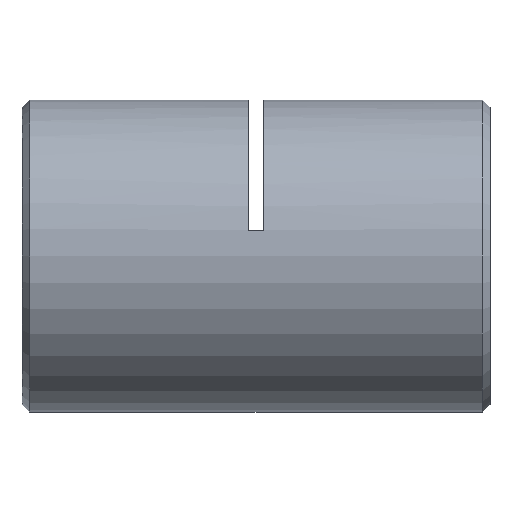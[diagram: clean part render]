
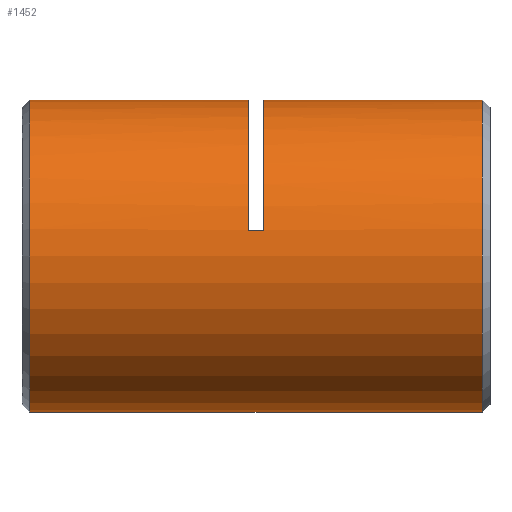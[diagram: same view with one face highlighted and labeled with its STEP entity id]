
A CAD part, left-side view. The second image highlights one B-rep face of the part: STEP entity #1452.
In plain terms, the highlighted cylindrical face has radius 10 mm (diameter 20 mm), a partial arc.
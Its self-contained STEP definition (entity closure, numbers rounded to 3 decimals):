
#118 = AXIS2_PLACEMENT_3D ( 'NONE', #502, #1829, #4420 ) ;
#138 = DIRECTION ( 'NONE',  ( 0., 1., 0. ) ) ;
#170 = DIRECTION ( 'NONE',  ( 0., 0., -1. ) ) ;
#173 = DIRECTION ( 'NONE',  ( 0., 1., 0. ) ) ;
#198 = DIRECTION ( 'NONE',  ( 0., 1., 0. ) ) ;
#206 = VERTEX_POINT ( 'NONE', #3872 ) ;
#208 = VERTEX_POINT ( 'NONE', #1262 ) ;
#273 = VERTEX_POINT ( 'NONE', #1274 ) ;
#475 = EDGE_CURVE ( 'NONE', #4526, #5340, #4085, .T. ) ;
#502 = CARTESIAN_POINT ( 'NONE',  ( 0., 14.75, 0. ) ) ;
#506 = DIRECTION ( 'NONE',  ( 0., 1., 0. ) ) ;
#706 = CIRCLE ( 'NONE', #3630, 10. ) ;
#719 = EDGE_CURVE ( 'NONE', #1089, #2155, #737, .T. ) ;
#733 = CARTESIAN_POINT ( 'NONE',  ( 0., 0.75, -10. ) ) ;
#737 = CIRCLE ( 'NONE', #5626, 10. ) ;
#930 = DIRECTION ( 'NONE',  ( 0., 1., 0. ) ) ;
#1011 = VERTEX_POINT ( 'NONE', #5168 ) ;
#1020 = CARTESIAN_POINT ( 'NONE',  ( 0., 0., -10. ) ) ;
#1089 = VERTEX_POINT ( 'NONE', #3433 ) ;
#1242 = VECTOR ( 'NONE', #138, 1000. ) ;
#1262 = CARTESIAN_POINT ( 'NONE',  ( -9.86, 14.75, 1.667 ) ) ;
#1274 = CARTESIAN_POINT ( 'NONE',  ( 0., 14.75, 10. ) ) ;
#1417 = CARTESIAN_POINT ( 'NONE',  ( 0., 0.75, 0. ) ) ;
#1435 = DIRECTION ( 'NONE',  ( 0., 0., 1. ) ) ;
#1452 = ADVANCED_FACE ( 'NONE', ( #1772 ), #1698, .T. ) ;
#1473 = DIRECTION ( 'NONE',  ( 0., -1., 0. ) ) ;
#1635 = VECTOR ( 'NONE', #198, 1000. ) ;
#1694 = ORIENTED_EDGE ( 'NONE', *, *, #3210, .T. ) ;
#1698 = CYLINDRICAL_SURFACE ( 'NONE', #4623, 10. ) ;
#1772 = FACE_OUTER_BOUND ( 'NONE', #4321, .T. ) ;
#1829 = DIRECTION ( 'NONE',  ( 0., 1., 0. ) ) ;
#1885 = EDGE_CURVE ( 'NONE', #2155, #206, #4333, .T. ) ;
#1892 = EDGE_CURVE ( 'NONE', #1011, #273, #3185, .T. ) ;
#1945 = CIRCLE ( 'NONE', #4563, 10. ) ;
#1953 = CARTESIAN_POINT ( 'NONE',  ( 0., 15.75, 10. ) ) ;
#2155 = VERTEX_POINT ( 'NONE', #1953 ) ;
#2421 = ORIENTED_EDGE ( 'NONE', *, *, #5221, .F. ) ;
#2450 = DIRECTION ( 'NONE',  ( 0., 0., 1. ) ) ;
#2713 = ORIENTED_EDGE ( 'NONE', *, *, #1892, .T. ) ;
#2828 = LINE ( 'NONE', #4916, #1242 ) ;
#2848 = ORIENTED_EDGE ( 'NONE', *, *, #1885, .T. ) ;
#2862 = CARTESIAN_POINT ( 'NONE',  ( 0., 0., 0. ) ) ;
#2997 = ORIENTED_EDGE ( 'NONE', *, *, #4833, .T. ) ;
#3185 = LINE ( 'NONE', #4621, #5022 ) ;
#3210 = EDGE_CURVE ( 'NONE', #206, #5340, #706, .T. ) ;
#3433 = CARTESIAN_POINT ( 'NONE',  ( -9.86, 15.75, 1.667 ) ) ;
#3630 = AXIS2_PLACEMENT_3D ( 'NONE', #4073, #1473, #170 ) ;
#3869 = DIRECTION ( 'NONE',  ( 0., 0., 1. ) ) ;
#3872 = CARTESIAN_POINT ( 'NONE',  ( 0., 29.75, 10. ) ) ;
#4073 = CARTESIAN_POINT ( 'NONE',  ( 0., 29.75, 0. ) ) ;
#4085 = LINE ( 'NONE', #1020, #1635 ) ;
#4245 = CARTESIAN_POINT ( 'NONE',  ( 0., 15.75, 0. ) ) ;
#4271 = DIRECTION ( 'NONE',  ( 0., 1., 0. ) ) ;
#4279 = CARTESIAN_POINT ( 'NONE',  ( 0., 0., 10. ) ) ;
#4280 = EDGE_CURVE ( 'NONE', #4526, #1011, #1945, .T. ) ;
#4321 = EDGE_LOOP ( 'NONE', ( #4813, #5364, #2713, #2421, #2997, #4649, #2848, #1694 ) ) ;
#4333 = LINE ( 'NONE', #4279, #5224 ) ;
#4420 = DIRECTION ( 'NONE',  ( 0., 0., 1. ) ) ;
#4508 = CIRCLE ( 'NONE', #118, 10. ) ;
#4526 = VERTEX_POINT ( 'NONE', #733 ) ;
#4540 = CARTESIAN_POINT ( 'NONE',  ( 0., 29.75, -10. ) ) ;
#4563 = AXIS2_PLACEMENT_3D ( 'NONE', #1417, #506, #1435 ) ;
#4621 = CARTESIAN_POINT ( 'NONE',  ( 0., 0., 10. ) ) ;
#4623 = AXIS2_PLACEMENT_3D ( 'NONE', #2862, #173, #2450 ) ;
#4649 = ORIENTED_EDGE ( 'NONE', *, *, #719, .T. ) ;
#4715 = DIRECTION ( 'NONE',  ( 0., 1., 0. ) ) ;
#4813 = ORIENTED_EDGE ( 'NONE', *, *, #475, .F. ) ;
#4833 = EDGE_CURVE ( 'NONE', #208, #1089, #2828, .T. ) ;
#4916 = CARTESIAN_POINT ( 'NONE',  ( -9.86, 15.25, 1.667 ) ) ;
#5022 = VECTOR ( 'NONE', #4715, 1000. ) ;
#5168 = CARTESIAN_POINT ( 'NONE',  ( 0., 0.75, 10. ) ) ;
#5221 = EDGE_CURVE ( 'NONE', #208, #273, #4508, .T. ) ;
#5224 = VECTOR ( 'NONE', #930, 1000. ) ;
#5340 = VERTEX_POINT ( 'NONE', #4540 ) ;
#5364 = ORIENTED_EDGE ( 'NONE', *, *, #4280, .T. ) ;
#5626 = AXIS2_PLACEMENT_3D ( 'NONE', #4245, #4271, #3869 ) ;
